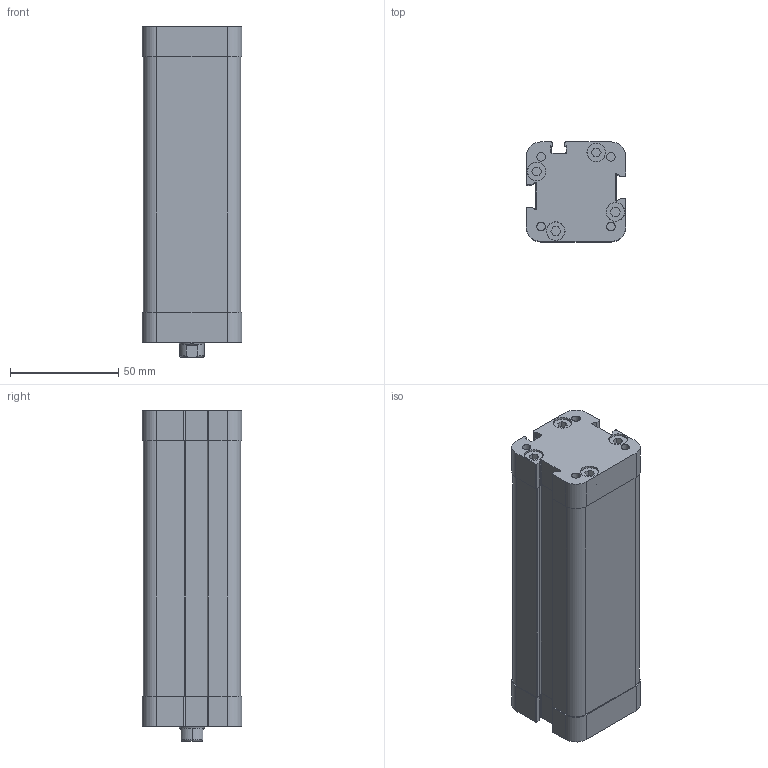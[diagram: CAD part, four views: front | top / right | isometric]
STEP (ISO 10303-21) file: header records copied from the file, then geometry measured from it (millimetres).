
FILE_DESCRIPTION((''),'2;1');
FILE_NAME('P11M20320100.stp','2010-02-25T19:09:10',('B. Petkovic 2010'),('AZ PNEUMATICA S.r.l.'),'Mechanical Desktop 2006','Mechanical Desktop 2006','Via Marco Biagi 6, I-20020 Misinto(MI) Italy, azpneu@tin.it');
FILE_SCHEMA(('CONFIG_CONTROL_DESIGN'));
Length unit declared in the file: millimetre
Products named in the file (2): P11M20320100; COMPACT CILINDRI
Assembly tree (1 placements, depth 2):
  P11M20320100
    COMPACT CILINDRI
Bounding box: 46 x 46 x 153 mm (x, y, z)
Volume: 271961.6 mm3; surface area: 38490.5 mm2
Topology: 1 solids, 1 shells, 300 faces, 758 edges, 497 vertices
Faces by surface type: plane 176, cylinder 116, cone 6, torus 2
Entity records: 9209 total; most frequent: CARTESIAN_POINT 1631, DIRECTION 1614, ORIENTED_EDGE 1512, EDGE_CURVE 756, AXIS2_PLACEMENT_3D 558, VECTOR 498, LINE 498, VERTEX_POINT 497
